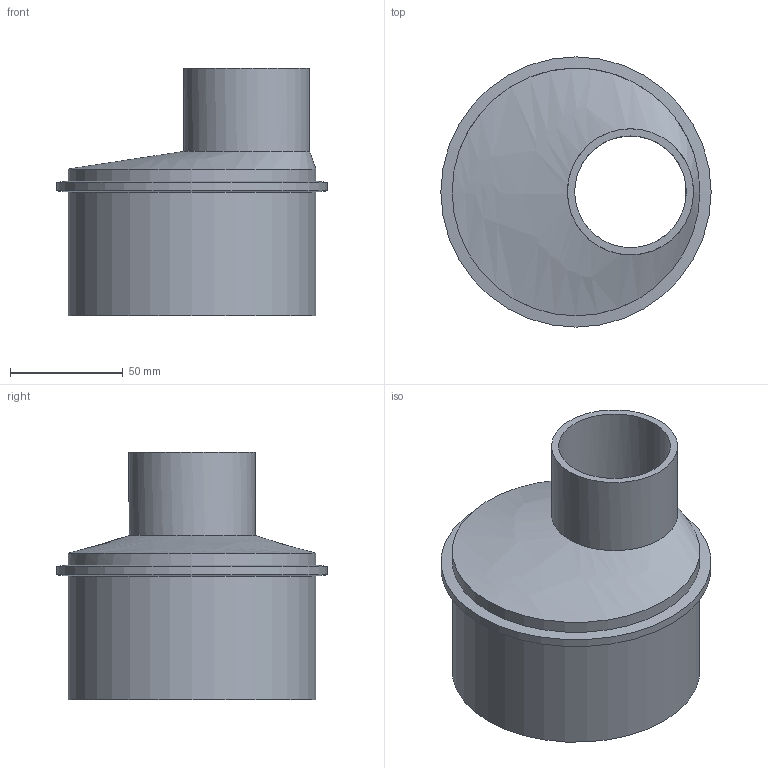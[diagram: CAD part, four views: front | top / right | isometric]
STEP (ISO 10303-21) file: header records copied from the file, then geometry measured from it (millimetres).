
FILE_DESCRIPTION(/* description */ (''),/* implementation_level */ '2;1');
FILE_NAME(/* name */ 'Z:\Geberit\Export\NewStep\Reduktion_Ipart\stp\310050.stp',/* time_stamp */ '2014-04-03T18:14:09+02:00',/* author */ ('nelson'),/* organization */ (''),/* preprocessor_version */ 'ST-DEVELOPER v15.2',/* originating_system */ 'Autodesk Inventor 2014',/* authorisation */ '');
FILE_SCHEMA (('AUTOMOTIVE_DESIGN { 1 0 10303 214 3 1 1 }'));
Length unit declared in the file: millimetre
Products named in the file (1): 310050
Bounding box: 120 x 120 x 110 mm (x, y, z)
Volume: 164244.6 mm3; surface area: 74454.1 mm2
Topology: 1 solids, 1 shells, 12 faces, 28 edges, 18 vertices
Faces by surface type: cylinder 6, cone 2, bspline 2, plane 2
Full cylindrical faces by diameter (mm): 49.6 x1, 56 x1, 98 x1, 110 x2, 120 x1
Entity records: 355 total; most frequent: CARTESIAN_POINT 83, DIRECTION 54, ORIENTED_EDGE 36, AXIS2_PLACEMENT_3D 27, EDGE_LOOP 22, EDGE_CURVE 18, CIRCLE 16, VERTEX_POINT 16
